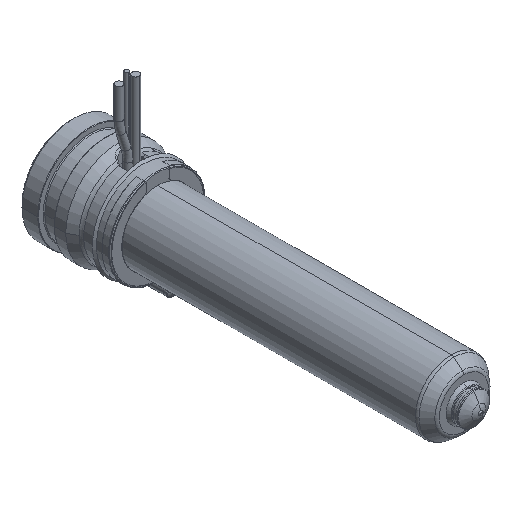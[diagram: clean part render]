
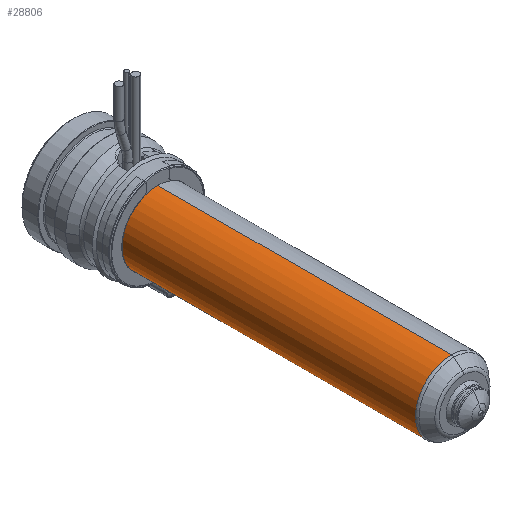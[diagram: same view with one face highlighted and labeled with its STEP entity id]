
A CAD part, isometric view. The second image highlights one B-rep face of the part: STEP entity #28806.
In plain terms, the highlighted cylindrical face has radius 9 mm (diameter 18 mm), a partial arc.
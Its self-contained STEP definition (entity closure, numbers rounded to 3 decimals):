
#28191=CARTESIAN_POINT('',(0.,-95.836,0.));
#28192=DIRECTION('',(0.,-1.,0.));
#28193=DIRECTION('',(0.,0.,1.));
#28194=AXIS2_PLACEMENT_3D('',#28191,#28192,#28193);
#28199=CARTESIAN_POINT('',(0.,-22.,0.));
#28200=DIRECTION('',(0.,-1.,0.));
#28201=DIRECTION('',(0.,0.,1.));
#28202=AXIS2_PLACEMENT_3D('',#28199,#28200,#28201);
#28207=DIRECTION('',(0.,-1.,0.));
#28208=VECTOR('',#28207,73.836);
#28209=CARTESIAN_POINT('',(0.,-22.,9.));
#28210=LINE('',#28209,#28208);
#28222=DIRECTION('',(0.,-1.,0.));
#28223=VECTOR('',#28222,73.836);
#28224=CARTESIAN_POINT('',(0.,-22.,-9.));
#28225=LINE('',#28224,#28223);
#28423=CARTESIAN_POINT('',(0.,-22.,9.));
#28424=CARTESIAN_POINT('',(0.,-95.836,9.));
#28425=VERTEX_POINT('',#28423);
#28426=VERTEX_POINT('',#28424);
#28449=CARTESIAN_POINT('',(0.,-22.,-9.));
#28450=CARTESIAN_POINT('',(0.,-95.836,-9.));
#28451=VERTEX_POINT('',#28449);
#28452=VERTEX_POINT('',#28450);
#28792=CARTESIAN_POINT('',(0.,-13.7,0.));
#28793=DIRECTION('',(0.,-1.,0.));
#28794=DIRECTION('',(0.,0.,1.));
#28795=AXIS2_PLACEMENT_3D('',#28792,#28793,#28794);
#28796=CYLINDRICAL_SURFACE('',#28795,9.);
#28798=ORIENTED_EDGE('',*,*,#28797,.T.);
#28799=ORIENTED_EDGE('',*,*,#28787,.T.);
#28801=ORIENTED_EDGE('',*,*,#28800,.F.);
#28803=ORIENTED_EDGE('',*,*,#28802,.F.);
#28804=EDGE_LOOP('',(#28798,#28799,#28801,#28803));
#28805=FACE_OUTER_BOUND('',#28804,.F.);
#28806=ADVANCED_FACE('',(#28805),#28796,.T.);
#28195=CIRCLE('',#28194,9.);
#28203=CIRCLE('',#28202,9.);
#28787=EDGE_CURVE('',#28426,#28452,#28195,.T.);
#28797=EDGE_CURVE('',#28425,#28426,#28210,.T.);
#28800=EDGE_CURVE('',#28451,#28452,#28225,.T.);
#28802=EDGE_CURVE('',#28425,#28451,#28203,.T.);
